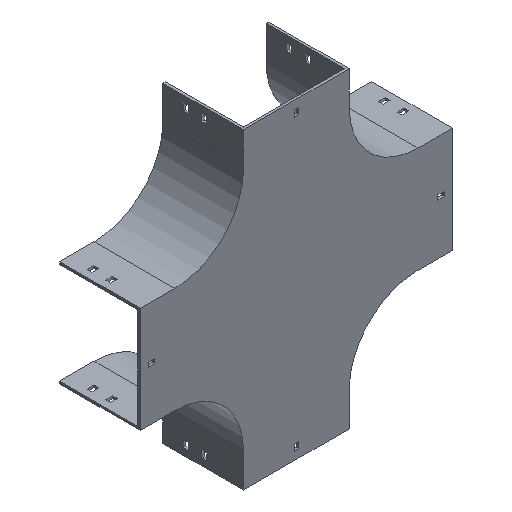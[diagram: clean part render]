
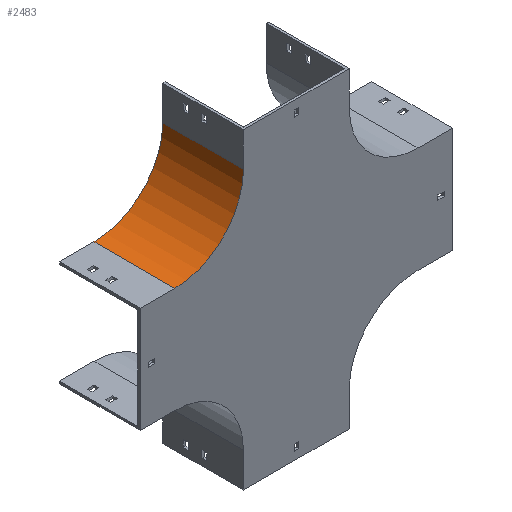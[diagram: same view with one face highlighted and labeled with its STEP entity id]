
A CAD part, isometric view. The second image highlights one B-rep face of the part: STEP entity #2483.
In plain terms, the highlighted cylindrical face has radius 100 mm (diameter 200 mm), a partial arc.
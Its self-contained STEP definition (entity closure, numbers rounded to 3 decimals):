
#347 = CARTESIAN_POINT ( 'NONE',  ( -354., 0., 0. ) ) ;
#428 = DIRECTION ( 'NONE',  ( 0., -1., 0. ) ) ;
#494 = CARTESIAN_POINT ( 'NONE',  ( -254., 117.5, 0. ) ) ;
#752 = LINE ( 'NONE', #963, #3136 ) ;
#804 = CARTESIAN_POINT ( 'NONE',  ( -254., 117.5, 0. ) ) ;
#817 = EDGE_CURVE ( 'NONE', #1349, #2875, #1990, .T. ) ;
#818 = ORIENTED_EDGE ( 'NONE', *, *, #2196, .T. ) ;
#933 = CARTESIAN_POINT ( 'NONE',  ( -354., 117.5, -100. ) ) ;
#963 = CARTESIAN_POINT ( 'NONE',  ( -354., 117.5, -100. ) ) ;
#1017 = EDGE_CURVE ( 'NONE', #2345, #3430, #752, .T. ) ;
#1223 = EDGE_CURVE ( 'NONE', #2345, #1349, #2890, .T. ) ;
#1349 = VERTEX_POINT ( 'NONE', #804 ) ;
#1388 = ORIENTED_EDGE ( 'NONE', *, *, #817, .F. ) ;
#1527 = DIRECTION ( 'NONE',  ( 0., -1., 0. ) ) ;
#1827 = ORIENTED_EDGE ( 'NONE', *, *, #1223, .F. ) ;
#1853 = CIRCLE ( 'NONE', #2285, 100. ) ;
#1939 = FACE_OUTER_BOUND ( 'NONE', #2352, .T. ) ;
#1981 = CARTESIAN_POINT ( 'NONE',  ( -354., 117.5, 0. ) ) ;
#1990 = LINE ( 'NONE', #494, #2142 ) ;
#1997 = DIRECTION ( 'NONE',  ( 0., -1., 0. ) ) ;
#2131 = CARTESIAN_POINT ( 'NONE',  ( -354., 0., -100. ) ) ;
#2142 = VECTOR ( 'NONE', #2240, 1000. ) ;
#2189 = CYLINDRICAL_SURFACE ( 'NONE', #3400, 100. ) ;
#2196 = EDGE_CURVE ( 'NONE', #3430, #2875, #1853, .T. ) ;
#2239 = CARTESIAN_POINT ( 'NONE',  ( -254., 0., 0. ) ) ;
#2240 = DIRECTION ( 'NONE',  ( 0., -1., 0. ) ) ;
#2285 = AXIS2_PLACEMENT_3D ( 'NONE', #347, #1527, #2714 ) ;
#2306 = ORIENTED_EDGE ( 'NONE', *, *, #1017, .T. ) ;
#2334 = AXIS2_PLACEMENT_3D ( 'NONE', #1981, #1997, #3243 ) ;
#2345 = VERTEX_POINT ( 'NONE', #933 ) ;
#2352 = EDGE_LOOP ( 'NONE', ( #818, #1388, #1827, #2306 ) ) ;
#2483 = ADVANCED_FACE ( 'NONE', ( #1939 ), #2189, .F. ) ;
#2564 = CARTESIAN_POINT ( 'NONE',  ( -354., 117.5, 0. ) ) ;
#2714 = DIRECTION ( 'NONE',  ( 0., 0., 1. ) ) ;
#2863 = DIRECTION ( 'NONE',  ( 0., -1., 0. ) ) ;
#2875 = VERTEX_POINT ( 'NONE', #2239 ) ;
#2890 = CIRCLE ( 'NONE', #2334, 100. ) ;
#3136 = VECTOR ( 'NONE', #428, 1000. ) ;
#3243 = DIRECTION ( 'NONE',  ( 0., 0., 1. ) ) ;
#3400 = AXIS2_PLACEMENT_3D ( 'NONE', #2564, #2863, #3709 ) ;
#3430 = VERTEX_POINT ( 'NONE', #2131 ) ;
#3709 = DIRECTION ( 'NONE',  ( 0., 0., -1. ) ) ;
